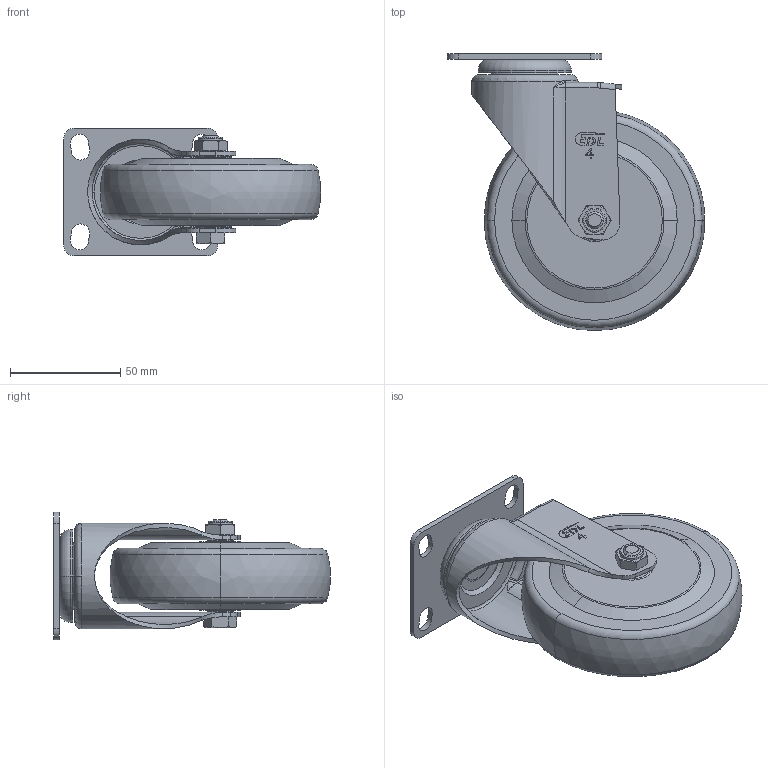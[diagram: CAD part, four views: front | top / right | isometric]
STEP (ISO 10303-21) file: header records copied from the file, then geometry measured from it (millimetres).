
FILE_DESCRIPTION((''),'2;1');
FILE_NAME('S34714_ASM','2021-07-24T',('lenovo'),(''),'PRO/ENGINEER BY PARAMETRIC TECHNOLOGY CORPORATION, 2010280','PRO/ENGINEER BY PARAMETRIC TECHNOLOGY CORPORATION, 2010280','');
FILE_SCHEMA(('CONFIG_CONTROL_DESIGN'));
Length unit declared in the file: millimetre
Products named in the file (6): S340-01; S344-11; 364-964; S340-33; S340-34; S34714_ASM
Assembly tree (5 placements, depth 2):
  S34714_ASM
    S340-01
    S344-11
    364-964
    S340-33
    S340-34
Bounding box: 116.56 x 125.36 x 58 mm (x, y, z)
Volume: 245269.9 mm3; surface area: 53581.2 mm2
Topology: 5 solids, 5 shells, 259 faces, 626 edges, 394 vertices
Faces by surface type: plane 110, cylinder 64, torus 44, cone 24, bspline 17
Entity records: 8749 total; most frequent: CARTESIAN_POINT 2527, DIRECTION 1300, ORIENTED_EDGE 1252, EDGE_CURVE 626, AXIS2_PLACEMENT_3D 497, VERTEX_POINT 394, VECTOR 306, LINE 306
